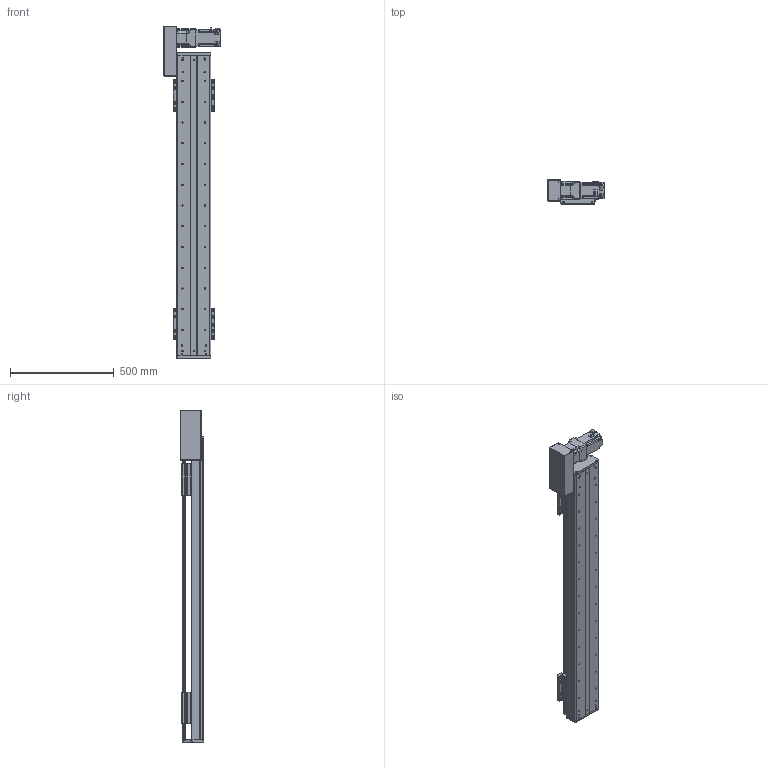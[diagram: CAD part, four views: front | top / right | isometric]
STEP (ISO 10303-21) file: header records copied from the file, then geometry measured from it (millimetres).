
FILE_DESCRIPTION(/* description */ (''),/* implementation_level */ '2;1');
FILE_NAME(/* name */ 'C:\Users\PC\Desktop\3D도면\STEP\DSB165-L7G-W1100-R.stp',/* time_stamp */ '2018-06-25T14:32:31+09:00',/* author */ ('PC'),/* organization */ (''),/* preprocessor_version */ 'ST-DEVELOPER v16.5',/* originating_system */ 'Autodesk Inventor 2017',/* authorisation */ '');
FILE_SCHEMA (('AUTOMOTIVE_DESIGN { 1 0 10303 214 3 1 1 }'));
Length unit declared in the file: millimetre
Products named in the file (12): DSB165-L; DSR165-BASE_S; hg-kr73_; ab0901-p0401300102; 11-DBS165 BELT COVER; DBS165-COVER; DBS165-COVER_1; DBS165-UP COVER; DBS165-TABLE(MSA20S); DSR126-SENSOR DOG; pm-y65_step; SENSOR BRACKET(EE-SX674A)
Assembly tree (16 placements, depth 2):
  DSB165-L
    DSR165-BASE_S
    hg-kr73_
    ab0901-p0401300102
    11-DBS165 BELT COVER
    DBS165-COVER
    DBS165-COVER_1
    DBS165-UP COVER
    DBS165-TABLE(MSA20S)  x2
    DSR126-SENSOR DOG
    pm-y65_step  x3
    SENSOR BRACKET(EE-SX674A)  x3
Bounding box: 270 x 115 x 1600 mm (x, y, z)
Volume: 9324128.9 mm3; surface area: 2162932.2 mm2
Topology: 17 solids, 22 shells, 1683 faces, 4515 edges, 2976 vertices
Faces by surface type: plane 926, cylinder 627, cone 118, sphere 8, torus 4
Full cylindrical faces by diameter (mm): 2.459 x20, 3.5 x6, 4.134 x42, 4.5 x18, 5 x27, 5.5 x36, 5.9 x4, 6 x8, 6.6 x14, 6.647 x46, 6.8 x1, 7 x4, 7.6 x4, 8 x1, 8.4 x1, 8.5 x24, 8.7 x1, 9.5 x32, 11 x6, 14 x16, 19 x1, 22 x1, 24 x1, 25 x1, 28 x1, 67 x1, 70 x2, 80 x1
Entity records: 35789 total; most frequent: DIRECTION 6332, CARTESIAN_POINT 6127, ORIENTED_EDGE 5566, EDGE_CURVE 2788, AXIS2_PLACEMENT_3D 2336, VERTEX_POINT 1993, EDGE_LOOP 1763, LINE 1660
